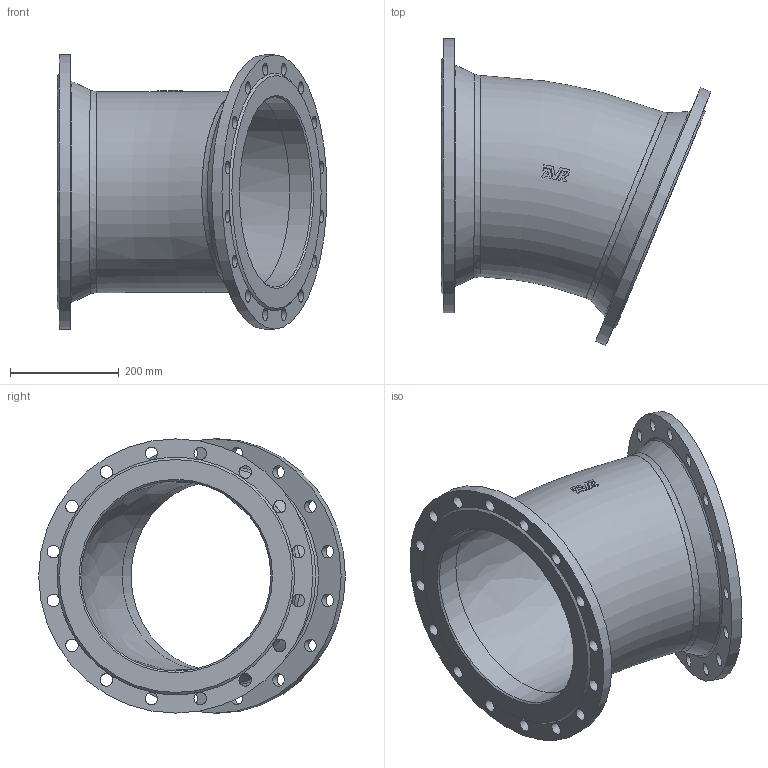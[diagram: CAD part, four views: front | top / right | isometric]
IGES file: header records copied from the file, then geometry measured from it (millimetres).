
Start section: SolidWorks IGES file using analytic representation for surfaces
Global section: file name: \\avksan2\techshare\PBM outline export from Enovia\O_712_0210_DN350_0X_REV01.igs; native system: SolidWorks 2022; preprocessor: SolidWorks 2022; author: pbm; date: 240815.141807; units: millimetre
Bounding box: 496.95 x 564.61 x 505 mm (x, y, z)
Surface area: 1330008.9 mm2 (no closed solid volume)
Topology: 0 solids, 0 shells, 95 faces, 544 edges, 464 vertices
Faces by surface type: revolution 52, bspline 43
